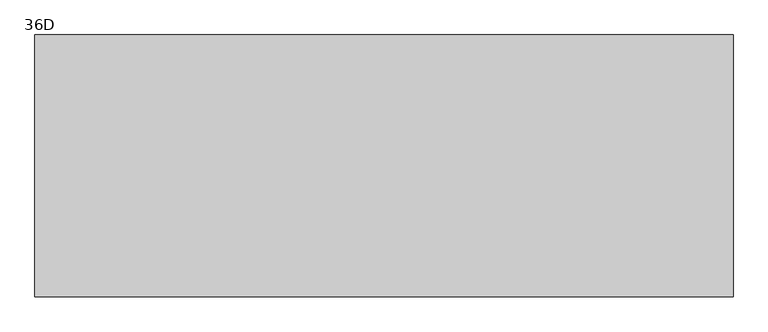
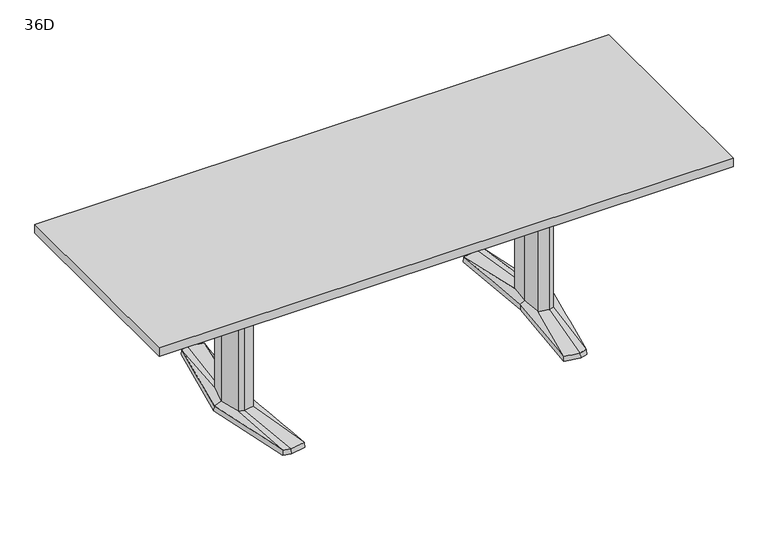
"""IFC4 building model written with IfcOpenShell, lengths in millimetres: furniture geometry, Coalesse_AM_Table_Conference_ETable2_Rectangular_96in_AluminiumBase : 36D."""

from ifc_helpers import new_model, si_unit, frame, origin, place, context, project, spatial, polyline, outline, extrude, source, transform, mapped, element, save
from ifc_brep_helpers import plane_surface, spline_surface, advanced_brep


def furniture_36d_90888d20(model_context):
    return source(origin(), model_context, "Body", "SolidModel", [
        advanced_brep(
        [(614.8503471, -379.3768856, 25.4), (644.5756636, -371.5332654, 25.4), (668.2327243, -89.293702, 36.5125), (648.9795254, -94.605478, 36.5125), (606.0521001, -87.0529327, 36.5125), (551.7612538, -368.5071562, 25.4), (597.9364207, 0.0, 36.5125), (579.8389754, 0.3970149, 25.4), (606.0521001, 87.0529327, 36.5125), (551.7615002, 368.5172593, 25.4), (648.9795254, 94.605478, 36.5125), (614.8502233, 379.3769183, 25.4), (668.2327243, 89.293702, 36.5125), (644.7535458, 371.4863276, 25.4), (692.1595251, 0.0, 36.5125), (721.4851663, 0.0003516, 25.4), (578.2468742, 0.3968871, 3.175), (550.06875, 369.8367279, 3.175), (614.9213004, 381.0, 3.175), (646.1093245, 372.7704151, 3.175), (723.10625, 0.0, 3.175), (645.9309817, -372.8174744, 3.175), (614.9213004, -381.0, 3.175), (550.06875, -369.8264415, 3.175), (649.5979264, 107.6121478, 3.175), (594.3065451, 97.8843184, 3.175), (585.1810887, 0.0, 3.175), (594.3065451, -97.8843184, 3.175), (649.5979264, -107.6121478, 3.175), (678.6183473, -99.6056872, 3.175), (705.3083085, 0.0, 3.175), (678.6183473, 99.6056872, 3.175), (613.4286812, 346.9152841, 3.175), (557.7811371, 337.3364985, 3.175), (560.1889918, 324.8641942, 3.175), (612.8600644, 333.9306305, 3.175), (648.6725609, 324.4807859, 3.175), (647.5544526, 337.9105158, 3.175), (613.4286812, -346.9152841, 3.175), (647.5544526, -337.9105158, 3.175), (648.6725609, -324.4807859, 3.175), (612.8600644, -333.9306305, 3.175), (560.1889918, -324.8641942, 3.175), (557.7811371, -337.3364985, 3.175), (649.5979264, 107.6121478, 0.0), (678.6183473, 99.6056872, 0.0), (705.3083085, 0.0, 0.0), (678.6183473, -99.6056872, 0.0), (649.5979264, -107.6121478, 0.0), (594.3065451, -97.8843184, 0.0), (585.1810887, 0.0, 0.0), (594.3065451, 97.8843184, 0.0), (613.4286812, 346.9152841, 0.0), (647.5544526, 337.9105158, 0.0), (648.6725609, 324.4807859, 0.0), (612.8600644, 333.9306305, 0.0), (560.1889918, 324.8641942, 0.0), (557.7811371, 337.3364985, 0.0), (613.4286812, -346.9152841, 0.0), (557.7811371, -337.3364985, 0.0), (560.1889918, -324.8641942, 0.0), (612.8600644, -333.9306305, 0.0), (648.6725609, -324.4807859, 0.0), (647.5544526, -337.9105158, 0.0), (668.2327243, 89.293702, 698.5), (648.9795254, 94.605478, 698.5), (606.0521001, 87.0529327, 698.5), (597.9364207, 0.0, 698.5), (606.0521001, -87.0529327, 698.5), (648.9795254, -94.605478, 698.5), (668.2327243, -89.293702, 698.5), (692.1595251, 0.0, 698.5)],
        [
            (0, 1),
            (1, 2),
            (2, 3),
            (3, 0),
            (3, 4),
            (4, 5),
            (5, 0),
            (4, 6),
            (6, 7),
            (7, 5),
            (6, 8),
            (8, 9),
            (9, 7),
            (8, 10),
            (10, 11),
            (11, 9),
            (10, 12),
            (12, 13),
            (13, 11),
            (12, 14),
            (14, 15),
            (15, 13),
            (1, 15),
            (14, 2),
            (16, 17),
            (17, 18),
            (18, 19),
            (19, 20),
            (20, 21),
            (21, 22),
            (22, 23),
            (23, 16),
            (24, 25),
            (25, 26),
            (26, 27),
            (27, 28),
            (28, 29),
            (29, 30),
            (30, 31),
            (31, 24),
            (32, 33),
            (33, 34),
            (34, 35),
            (35, 36),
            (36, 37),
            (37, 32),
            (38, 39),
            (39, 40),
            (40, 41),
            (41, 42),
            (42, 43),
            (43, 38),
            (16, 7),
            (9, 17),
            (11, 18),
            (13, 19),
            (15, 20),
            (1, 21),
            (0, 22),
            (5, 23),
            (44, 45),
            (45, 46),
            (46, 47),
            (47, 48),
            (48, 49),
            (49, 50),
            (50, 51),
            (51, 44),
            (52, 53),
            (53, 54),
            (54, 55),
            (55, 56),
            (56, 57),
            (57, 52),
            (58, 59),
            (59, 60),
            (60, 61),
            (61, 62),
            (62, 63),
            (63, 58),
            (44, 24),
            (31, 45),
            (30, 46),
            (29, 47),
            (28, 48),
            (27, 49),
            (26, 50),
            (25, 51),
            (52, 32),
            (37, 53),
            (36, 54),
            (35, 55),
            (34, 56),
            (33, 57),
            (58, 38),
            (43, 59),
            (42, 60),
            (41, 61),
            (40, 62),
            (39, 63),
            (64, 65),
            (65, 66),
            (66, 67),
            (67, 68),
            (68, 69),
            (69, 70),
            (70, 71),
            (71, 64),
            (71, 14),
            (12, 64),
            (70, 2),
            (69, 3),
            (68, 4),
            (67, 6),
            (66, 8),
            (65, 10),
        ],
        [
            spline_surface(1, 1, [[(644.5756636, -371.5332654, 25.4), (614.8503471, -379.3768856, 25.4)], [(668.2327243, -89.293702, 36.5125), (648.9795254, -94.605478, 36.5125)]], [2, 2], [2, 2], [0.0, 1.0], [0.0, 1.0]),
            spline_surface(1, 1, [[(614.8503471, -379.3768856, 25.4), (551.7612538, -368.5071562, 25.4)], [(648.9795254, -94.605478, 36.5125), (606.0521001, -87.0529327, 36.5125)]], [2, 2], [2, 2], [0.0, 1.0], [0.0, 1.0]),
            spline_surface(1, 1, [[(551.7612538, -368.5071562, 25.4), (579.8389754, 0.3970149, 25.4)], [(606.0521001, -87.0529327, 36.5125), (597.9364207, 0.0, 36.5125)]], [2, 2], [2, 2], [0.0, 1.0], [0.0, 1.0]),
            spline_surface(1, 1, [[(579.8389754, 0.3970149, 25.4), (551.7615002, 368.5172593, 25.4)], [(597.9364207, 0.0, 36.5125), (606.0521001, 87.0529327, 36.5125)]], [2, 2], [2, 2], [0.0, 1.0], [0.0, 1.0]),
            spline_surface(1, 1, [[(551.7615002, 368.5172593, 25.4), (614.8502233, 379.3769183, 25.4)], [(606.0521001, 87.0529327, 36.5125), (648.9795254, 94.605478, 36.5125)]], [2, 2], [2, 2], [0.0, 1.0], [0.0, 1.0]),
            spline_surface(1, 1, [[(614.8502233, 379.3769183, 25.4), (644.7535458, 371.4863276, 25.4)], [(648.9795254, 94.605478, 36.5125), (668.2327243, 89.293702, 36.5125)]], [2, 2], [2, 2], [0.0, 1.0], [0.0, 1.0]),
            spline_surface(1, 1, [[(644.7535458, 371.4863276, 25.4), (721.4851663, 0.0003516, 25.4)], [(668.2327243, 89.293702, 36.5125), (692.1595251, 0.0, 36.5125)]], [2, 2], [2, 2], [0.0, 1.0], [0.0, 1.0]),
            spline_surface(1, 1, [[(721.4851663, 0.0003516, 25.4), (644.5756636, -371.5332654, 25.4)], [(692.1595251, 0.0, 36.5125), (668.2327243, -89.293702, 36.5125)]], [2, 2], [2, 2], [0.0, 1.0], [0.0, 1.0]),
            plane_surface(frame((615.4216914, 0.0450143, 3.175), z_axis=(0.0, 0.0, -1.0), x_axis=(-0.9669048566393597, -0.2551372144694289, 0.0))),
            plane_surface(frame((564.1578121, 185.1168075, 3.175), z_axis=(-0.9945699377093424, -0.07585840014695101, 0.0712470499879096), x_axis=(-0.07605167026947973, 0.9971038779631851, 0.0))),
            plane_surface(frame((582.4950252, 375.418364, 3.175), z_axis=(-0.1692071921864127, 0.9830019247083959, 0.07124704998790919), x_axis=(0.985506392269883, 0.16963829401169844, 0.0))),
            plane_surface(frame((630.5153124, 376.8852076, 3.175), z_axis=(0.2544888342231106, 0.9644476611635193, 0.07124704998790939), x_axis=(0.9669048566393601, -0.25513721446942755, 0.0))),
            plane_surface(frame((684.6077872, 186.3852076, 3.175), z_axis=(0.9768383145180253, 0.2017690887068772, 0.07124704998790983), x_axis=(0.20228315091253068, -0.9793270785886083, 0.0))),
            plane_surface(frame((684.5186158, -186.4087372, 3.175), z_axis=(0.9767507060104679, -0.20219276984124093, 0.07124704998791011), x_axis=(-0.2027079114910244, -0.9792392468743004, 0.0))),
            plane_surface(frame((630.426141, -376.9087372, 3.175), z_axis=(0.2544888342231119, -0.9644476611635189, 0.0712470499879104), x_axis=(-0.9669048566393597, -0.2551372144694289, 0.0))),
            plane_surface(frame((582.4950252, -375.4132207, 3.175), z_axis=(-0.16935861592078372, -0.982975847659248, 0.07124704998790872), x_axis=(-0.9854802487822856, 0.16979010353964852, 0.0))),
            plane_surface(frame((564.1578121, -184.7147772, 3.175), z_axis=(-0.9945820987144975, 0.07569878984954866, 0.07124704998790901), x_axis=(0.07589165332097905, 0.9971160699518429, 0.0))),
            plane_surface(frame((652.3571479, 106.8509046, 0.0), z_axis=(0.0, 0.0, -1.0000000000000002), x_axis=(-0.9639855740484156, 0.26595453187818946, 0.0))),
            plane_surface(frame((649.5979264, 107.6121478, 3.175), z_axis=(0.26595453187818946, 0.9639855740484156, 0.0), x_axis=(0.0, 0.0, -1.0))),
            plane_surface(frame((678.6183473, 99.6056872, 3.175), z_axis=(0.9659241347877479, 0.2588253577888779, 0.0), x_axis=(0.0, 0.0, -1.0))),
            plane_surface(frame((705.3083085, 0.0, 3.175), z_axis=(0.9659241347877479, -0.2588253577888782, 0.0), x_axis=(0.0, 0.0, -1.0))),
            plane_surface(frame((678.6183473, -99.6056872, 3.175), z_axis=(0.26595453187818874, -0.9639855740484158, 0.0), x_axis=(0.0, 0.0, -1.0))),
            plane_surface(frame((649.5979264, -107.6121478, 3.175), z_axis=(-0.17327617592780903, -0.9848732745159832, 0.0), x_axis=(0.0, 0.0, -1.0))),
            plane_surface(frame((594.3065451, -97.8843184, 3.175), z_axis=(-0.9956824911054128, -0.0928244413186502, 0.0), x_axis=(0.0, 0.0, -1.0))),
            plane_surface(frame((585.1810887, 0.0, 3.175), z_axis=(-0.9956824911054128, 0.09282444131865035, 0.0), x_axis=(0.0, 0.0, -1.0))),
            plane_surface(frame((594.3065451, 97.8843184, 3.175), z_axis=(-0.17327617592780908, 0.984873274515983, 0.0), x_axis=(0.0, 0.0, -1.0))),
            plane_surface(frame((613.4286812, 346.9152841, 3.175), z_axis=(0.25513721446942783, 0.9669048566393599, 0.0), x_axis=(0.0, 0.0, -1.0))),
            plane_surface(frame((647.5544526, 337.9105158, 3.175), z_axis=(0.9965521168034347, 0.0829691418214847, 0.0), x_axis=(0.0, 0.0, -1.0))),
            plane_surface(frame((648.6725609, 324.4807859, 3.175), z_axis=(-0.25513721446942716, -0.9669048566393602, 0.0), x_axis=(0.0, 0.0, -1.0))),
            plane_surface(frame((612.8600644, 333.9306305, 3.175), z_axis=(0.16963829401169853, -0.985506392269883, 0.0), x_axis=(0.0, 0.0, -1.0))),
            plane_surface(frame((560.1889918, 324.8641942, 3.175), z_axis=(-0.9818699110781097, -0.18955600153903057, 0.0), x_axis=(0.0, 0.0, -1.0))),
            plane_surface(frame((557.7811371, 337.3364985, 3.175), z_axis=(-0.16963829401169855, 0.9855063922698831, 0.0), x_axis=(0.0, 0.0, -1.0))),
            plane_surface(frame((613.4286812, -346.9152841, 3.175), z_axis=(-0.1696382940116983, -0.9855063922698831, 0.0), x_axis=(0.0, 0.0, -1.0))),
            plane_surface(frame((557.7811371, -337.3364985, 3.175), z_axis=(-0.9818699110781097, 0.18955600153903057, 0.0), x_axis=(0.0, 0.0, -1.0))),
            plane_surface(frame((560.1889918, -324.8641942, 3.175), z_axis=(0.16963829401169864, 0.985506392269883, 0.0), x_axis=(0.0, 0.0, -1.0))),
            plane_surface(frame((612.8600644, -333.9306305, 3.175), z_axis=(-0.2551372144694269, 0.9669048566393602, 0.0), x_axis=(0.0, 0.0, -1.0))),
            plane_surface(frame((648.6725609, -324.4807859, 3.175), z_axis=(0.9965521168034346, -0.0829691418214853, 0.0), x_axis=(0.0, 0.0, -1.0))),
            plane_surface(frame((647.5544526, -337.9105158, 3.175), z_axis=(0.2551372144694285, -0.9669048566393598, 0.0), x_axis=(0.0, 0.0, -1.0))),
            plane_surface(frame((692.1595251, 0.0, 698.5), z_axis=(0.0, 0.0, 1.0), x_axis=(0.25882535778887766, -0.965924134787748, 0.0))),
            plane_surface(frame((668.2327243, 89.293702, 698.5), z_axis=(0.965924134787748, 0.25882535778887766, 0.0), x_axis=(0.0, 0.0, -1.0))),
            plane_surface(frame((692.1595251, 0.0, 698.5), z_axis=(0.965924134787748, -0.2588253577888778, 0.0), x_axis=(0.0, 0.0, -1.0))),
            plane_surface(frame((668.2327243, -89.293702, 698.5), z_axis=(0.2659545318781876, -0.963985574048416, 0.0), x_axis=(0.0, 0.0, -1.0))),
            plane_surface(frame((648.9795254, -94.605478, 698.5), z_axis=(-0.1732761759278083, -0.9848732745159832, 0.0), x_axis=(0.0, 0.0, -1.0))),
            plane_surface(frame((606.0521001, -87.0529327, 698.5), z_axis=(-0.9956824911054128, -0.0928244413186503, 0.0), x_axis=(0.0, 0.0, -1.0))),
            plane_surface(frame((597.9364207, 0.0, 698.5), z_axis=(-0.9956824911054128, 0.09282444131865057, 0.0), x_axis=(0.0, 0.0, -1.0))),
            plane_surface(frame((606.0521001, 87.0529327, 698.5), z_axis=(-0.17327617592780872, 0.9848732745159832, 0.0), x_axis=(0.0, 0.0, -1.0))),
            plane_surface(frame((648.9795254, 94.605478, 698.5), z_axis=(0.26595453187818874, 0.9639855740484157, 0.0), x_axis=(0.0, 0.0, -1.0))),
        ],
        [
            (0, [[1, 2, 3, 4]]),
            (1, [[5, 6, 7, -4]]),
            (2, [[8, 9, 10, -6]]),
            (3, [[11, 12, 13, -9]]),
            (4, [[14, 15, 16, -12]]),
            (5, [[17, 18, 19, -15]]),
            (6, [[20, 21, 22, -18]]),
            (7, [[23, -21, 24, -2]]),
            (8, [[25, 26, 27, 28, 29, 30, 31, 32], [33, 34, 35, 36, 37, 38, 39, 40], [41, 42, 43, 44, 45, 46], [47, 48, 49, 50, 51, 52]]),
            (9, [[53, -13, 54, -25]]),
            (10, [[-54, -16, 55, -26]]),
            (11, [[-55, -19, 56, -27]]),
            (12, [[-56, -22, 57, -28]]),
            (13, [[-57, -23, 58, -29]]),
            (14, [[-58, -1, 59, -30]]),
            (15, [[-59, -7, 60, -31]]),
            (16, [[-60, -10, -53, -32]]),
            (17, [[61, 62, 63, 64, 65, 66, 67, 68]]),
            (17, [[69, 70, 71, 72, 73, 74]]),
            (17, [[75, 76, 77, 78, 79, 80]]),
            (18, [[81, -40, 82, -61]]),
            (19, [[-82, -39, 83, -62]]),
            (20, [[-83, -38, 84, -63]]),
            (21, [[-84, -37, 85, -64]]),
            (22, [[-85, -36, 86, -65]]),
            (23, [[-86, -35, 87, -66]]),
            (24, [[-87, -34, 88, -67]]),
            (25, [[-88, -33, -81, -68]]),
            (26, [[89, -46, 90, -69]]),
            (27, [[-90, -45, 91, -70]]),
            (28, [[-91, -44, 92, -71]]),
            (29, [[-92, -43, 93, -72]]),
            (30, [[-93, -42, 94, -73]]),
            (31, [[-94, -41, -89, -74]]),
            (32, [[95, -52, 96, -75]]),
            (33, [[-96, -51, 97, -76]]),
            (34, [[-97, -50, 98, -77]]),
            (35, [[-98, -49, 99, -78]]),
            (36, [[-99, -48, 100, -79]]),
            (37, [[-100, -47, -95, -80]]),
            (38, [[101, 102, 103, 104, 105, 106, 107, 108]]),
            (39, [[109, -20, 110, -108]]),
            (40, [[111, -24, -109, -107]]),
            (41, [[112, -3, -111, -106]]),
            (42, [[113, -5, -112, -105]]),
            (43, [[114, -8, -113, -104]]),
            (44, [[115, -11, -114, -103]]),
            (45, [[116, -14, -115, -102]]),
            (46, [[-110, -17, -116, -101]]),
        ],
    ),
        advanced_brep(
        [(-614.8503471, -379.3768856, 25.4), (-648.9795254, -94.605478, 36.5125), (-668.2327243, -89.293702, 36.5125), (-644.5756636, -371.5332654, 25.4), (-551.7612538, -368.5071562, 25.4), (-606.0521001, -87.0529327, 36.5125), (-579.8389754, 0.3970149, 25.4), (-597.9364207, 0.0, 36.5125), (-551.7615002, 368.5172593, 25.4), (-606.0521001, 87.0529327, 36.5125), (-614.8502233, 379.3769183, 25.4), (-648.9795254, 94.605478, 36.5125), (-644.7535458, 371.4863276, 25.4), (-668.2327243, 89.293702, 36.5125), (-721.4851663, 0.0003516, 25.4), (-692.1595251, 0.0, 36.5125), (-578.2468742, 0.3968871, 3.175), (-550.06875, -369.8264415, 3.175), (-614.9213004, -381.0, 3.175), (-645.9309817, -372.8174744, 3.175), (-723.10625, 0.0, 3.175), (-646.1093245, 372.7704151, 3.175), (-614.9213004, 381.0, 3.175), (-550.06875, 369.8367279, 3.175), (-649.5979264, 107.6121478, 3.175), (-678.6183473, 99.6056872, 3.175), (-705.3083085, 0.0, 3.175), (-678.6183473, -99.6056872, 3.175), (-649.5979264, -107.6121478, 3.175), (-594.3065451, -97.8843184, 3.175), (-585.1810887, 0.0, 3.175), (-594.3065451, 97.8843184, 3.175), (-613.4286812, 346.9152841, 3.175), (-647.5544526, 337.9105158, 3.175), (-648.6725609, 324.4807859, 3.175), (-612.8600644, 333.9306305, 3.175), (-560.1889918, 324.8641942, 3.175), (-557.7811371, 337.3364985, 3.175), (-613.4286812, -346.9152841, 3.175), (-557.7811371, -337.3364985, 3.175), (-560.1889918, -324.8641942, 3.175), (-612.8600644, -333.9306305, 3.175), (-648.6725609, -324.4807859, 3.175), (-647.5544526, -337.9105158, 3.175), (-649.5979264, 107.6121478, 0.0), (-594.3065451, 97.8843184, 0.0), (-585.1810887, 0.0, 0.0), (-594.3065451, -97.8843184, 0.0), (-649.5979264, -107.6121478, 0.0), (-678.6183473, -99.6056872, 0.0), (-705.3083085, 0.0, 0.0), (-678.6183473, 99.6056872, 0.0), (-613.4286812, 346.9152841, 0.0), (-557.7811371, 337.3364985, 0.0), (-560.1889918, 324.8641942, 0.0), (-612.8600644, 333.9306305, 0.0), (-648.6725609, 324.4807859, 0.0), (-647.5544526, 337.9105158, 0.0), (-613.4286812, -346.9152841, 0.0), (-647.5544526, -337.9105158, 0.0), (-648.6725609, -324.4807859, 0.0), (-612.8600644, -333.9306305, 0.0), (-560.1889918, -324.8641942, 0.0), (-557.7811371, -337.3364985, 0.0), (-668.2327243, 89.293702, 698.5), (-692.1595251, 0.0, 698.5), (-668.2327243, -89.293702, 698.5), (-648.9795254, -94.605478, 698.5), (-606.0521001, -87.0529327, 698.5), (-597.9364207, 0.0, 698.5), (-606.0521001, 87.0529327, 698.5), (-648.9795254, 94.605478, 698.5)],
        [
            (0, 1),
            (1, 2),
            (2, 3),
            (3, 0),
            (0, 4),
            (4, 5),
            (5, 1),
            (4, 6),
            (6, 7),
            (7, 5),
            (6, 8),
            (8, 9),
            (9, 7),
            (8, 10),
            (10, 11),
            (11, 9),
            (10, 12),
            (12, 13),
            (13, 11),
            (12, 14),
            (14, 15),
            (15, 13),
            (2, 15),
            (14, 3),
            (16, 17),
            (17, 18),
            (18, 19),
            (19, 20),
            (20, 21),
            (21, 22),
            (22, 23),
            (23, 16),
            (24, 25),
            (25, 26),
            (26, 27),
            (27, 28),
            (28, 29),
            (29, 30),
            (30, 31),
            (31, 24),
            (32, 33),
            (33, 34),
            (34, 35),
            (35, 36),
            (36, 37),
            (37, 32),
            (38, 39),
            (39, 40),
            (40, 41),
            (41, 42),
            (42, 43),
            (43, 38),
            (23, 8),
            (6, 16),
            (22, 10),
            (21, 12),
            (20, 14),
            (19, 3),
            (18, 0),
            (17, 4),
            (44, 45),
            (45, 46),
            (46, 47),
            (47, 48),
            (48, 49),
            (49, 50),
            (50, 51),
            (51, 44),
            (52, 53),
            (53, 54),
            (54, 55),
            (55, 56),
            (56, 57),
            (57, 52),
            (58, 59),
            (59, 60),
            (60, 61),
            (61, 62),
            (62, 63),
            (63, 58),
            (51, 25),
            (24, 44),
            (50, 26),
            (49, 27),
            (48, 28),
            (47, 29),
            (46, 30),
            (45, 31),
            (57, 33),
            (32, 52),
            (56, 34),
            (55, 35),
            (54, 36),
            (53, 37),
            (63, 39),
            (38, 58),
            (62, 40),
            (61, 41),
            (60, 42),
            (59, 43),
            (64, 65),
            (65, 66),
            (66, 67),
            (67, 68),
            (68, 69),
            (69, 70),
            (70, 71),
            (71, 64),
            (64, 13),
            (15, 65),
            (2, 66),
            (1, 67),
            (5, 68),
            (7, 69),
            (9, 70),
            (11, 71),
        ],
        [
            spline_surface(1, 1, [[(-644.5756636, -371.5332654, 25.4), (-668.2327243, -89.293702, 36.5125)], [(-614.8503471, -379.3768856, 25.4), (-648.9795254, -94.605478, 36.5125)]], [2, 2], [2, 2], [0.0, 1.0], [0.0, 1.0]),
            spline_surface(1, 1, [[(-614.8503471, -379.3768856, 25.4), (-648.9795254, -94.605478, 36.5125)], [(-551.7612538, -368.5071562, 25.4), (-606.0521001, -87.0529327, 36.5125)]], [2, 2], [2, 2], [0.0, 1.0], [0.0, 1.0]),
            spline_surface(1, 1, [[(-551.7612538, -368.5071562, 25.4), (-606.0521001, -87.0529327, 36.5125)], [(-579.8389754, 0.3970149, 25.4), (-597.9364207, 0.0, 36.5125)]], [2, 2], [2, 2], [0.0, 1.0], [0.0, 1.0]),
            spline_surface(1, 1, [[(-579.8389754, 0.3970149, 25.4), (-597.9364207, 0.0, 36.5125)], [(-551.7615002, 368.5172593, 25.4), (-606.0521001, 87.0529327, 36.5125)]], [2, 2], [2, 2], [0.0, 1.0], [0.0, 1.0]),
            spline_surface(1, 1, [[(-551.7615002, 368.5172593, 25.4), (-606.0521001, 87.0529327, 36.5125)], [(-614.8502233, 379.3769183, 25.4), (-648.9795254, 94.605478, 36.5125)]], [2, 2], [2, 2], [0.0, 1.0], [0.0, 1.0]),
            spline_surface(1, 1, [[(-614.8502233, 379.3769183, 25.4), (-648.9795254, 94.605478, 36.5125)], [(-644.7535458, 371.4863276, 25.4), (-668.2327243, 89.293702, 36.5125)]], [2, 2], [2, 2], [0.0, 1.0], [0.0, 1.0]),
            spline_surface(1, 1, [[(-644.7535458, 371.4863276, 25.4), (-668.2327243, 89.293702, 36.5125)], [(-721.4851663, 0.0003516, 25.4), (-692.1595251, 0.0, 36.5125)]], [2, 2], [2, 2], [0.0, 1.0], [0.0, 1.0]),
            spline_surface(1, 1, [[(-721.4851663, 0.0003516, 25.4), (-692.1595251, 0.0, 36.5125)], [(-644.5756636, -371.5332654, 25.4), (-668.2327243, -89.293702, 36.5125)]], [2, 2], [2, 2], [0.0, 1.0], [0.0, 1.0]),
            plane_surface(frame((-615.4216914, 0.0450143, 3.175), z_axis=(0.0, 0.0, -1.0), x_axis=(0.9669048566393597, -0.2551372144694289, 0.0))),
            plane_surface(frame((-564.1578121, 185.1168075, 3.175), z_axis=(0.9945699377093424, -0.07585840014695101, 0.0712470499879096), x_axis=(0.07605167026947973, 0.9971038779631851, 0.0))),
            plane_surface(frame((-582.4950252, 375.418364, 3.175), z_axis=(0.1692071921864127, 0.9830019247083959, 0.07124704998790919), x_axis=(-0.985506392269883, 0.16963829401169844, 0.0))),
            plane_surface(frame((-630.5153124, 376.8852076, 3.175), z_axis=(-0.2544888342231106, 0.9644476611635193, 0.07124704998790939), x_axis=(-0.9669048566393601, -0.25513721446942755, 0.0))),
            plane_surface(frame((-684.6077872, 186.3852076, 3.175), z_axis=(-0.9768383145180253, 0.2017690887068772, 0.07124704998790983), x_axis=(-0.20228315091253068, -0.9793270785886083, 0.0))),
            plane_surface(frame((-684.5186158, -186.4087372, 3.175), z_axis=(-0.9767507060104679, -0.20219276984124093, 0.07124704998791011), x_axis=(0.2027079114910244, -0.9792392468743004, 0.0))),
            plane_surface(frame((-630.426141, -376.9087372, 3.175), z_axis=(-0.2544888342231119, -0.9644476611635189, 0.0712470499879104), x_axis=(0.9669048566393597, -0.2551372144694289, 0.0))),
            plane_surface(frame((-582.4950252, -375.4132207, 3.175), z_axis=(0.16935861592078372, -0.982975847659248, 0.07124704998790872), x_axis=(0.9854802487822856, 0.16979010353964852, 0.0))),
            plane_surface(frame((-564.1578121, -184.7147772, 3.175), z_axis=(0.9945820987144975, 0.07569878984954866, 0.07124704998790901), x_axis=(-0.07589165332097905, 0.9971160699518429, 0.0))),
            plane_surface(frame((-652.3571479, 106.8509046, 0.0), z_axis=(0.0, 0.0, -1.0000000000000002), x_axis=(0.9639855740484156, 0.26595453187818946, 0.0))),
            plane_surface(frame((-649.5979264, 107.6121478, 3.175), z_axis=(-0.26595453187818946, 0.9639855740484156, 0.0), x_axis=(0.0, 0.0, -1.0))),
            plane_surface(frame((-678.6183473, 99.6056872, 3.175), z_axis=(-0.9659241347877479, 0.2588253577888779, 0.0), x_axis=(0.0, 0.0, -1.0))),
            plane_surface(frame((-705.3083085, 0.0, 3.175), z_axis=(-0.9659241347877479, -0.2588253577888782, 0.0), x_axis=(0.0, 0.0, -1.0))),
            plane_surface(frame((-678.6183473, -99.6056872, 3.175), z_axis=(-0.26595453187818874, -0.9639855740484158, 0.0), x_axis=(0.0, 0.0, -1.0))),
            plane_surface(frame((-649.5979264, -107.6121478, 3.175), z_axis=(0.17327617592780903, -0.9848732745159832, 0.0), x_axis=(0.0, 0.0, -1.0))),
            plane_surface(frame((-594.3065451, -97.8843184, 3.175), z_axis=(0.9956824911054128, -0.0928244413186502, 0.0), x_axis=(0.0, 0.0, -1.0))),
            plane_surface(frame((-585.1810887, 0.0, 3.175), z_axis=(0.9956824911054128, 0.09282444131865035, 0.0), x_axis=(0.0, 0.0, -1.0))),
            plane_surface(frame((-594.3065451, 97.8843184, 3.175), z_axis=(0.17327617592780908, 0.984873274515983, 0.0), x_axis=(0.0, 0.0, -1.0))),
            plane_surface(frame((-613.4286812, 346.9152841, 3.175), z_axis=(-0.25513721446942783, 0.9669048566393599, 0.0), x_axis=(0.0, 0.0, -1.0))),
            plane_surface(frame((-647.5544526, 337.9105158, 3.175), z_axis=(-0.9965521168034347, 0.0829691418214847, 0.0), x_axis=(0.0, 0.0, -1.0))),
            plane_surface(frame((-648.6725609, 324.4807859, 3.175), z_axis=(0.25513721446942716, -0.9669048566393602, 0.0), x_axis=(0.0, 0.0, -1.0))),
            plane_surface(frame((-612.8600644, 333.9306305, 3.175), z_axis=(-0.16963829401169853, -0.985506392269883, 0.0), x_axis=(0.0, 0.0, -1.0))),
            plane_surface(frame((-560.1889918, 324.8641942, 3.175), z_axis=(0.9818699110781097, -0.18955600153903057, 0.0), x_axis=(0.0, 0.0, -1.0))),
            plane_surface(frame((-557.7811371, 337.3364985, 3.175), z_axis=(0.16963829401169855, 0.9855063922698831, 0.0), x_axis=(0.0, 0.0, -1.0))),
            plane_surface(frame((-613.4286812, -346.9152841, 3.175), z_axis=(0.1696382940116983, -0.9855063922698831, 0.0), x_axis=(0.0, 0.0, -1.0))),
            plane_surface(frame((-557.7811371, -337.3364985, 3.175), z_axis=(0.9818699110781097, 0.18955600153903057, 0.0), x_axis=(0.0, 0.0, -1.0))),
            plane_surface(frame((-560.1889918, -324.8641942, 3.175), z_axis=(-0.16963829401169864, 0.985506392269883, 0.0), x_axis=(0.0, 0.0, -1.0))),
            plane_surface(frame((-612.8600644, -333.9306305, 3.175), z_axis=(0.2551372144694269, 0.9669048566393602, 0.0), x_axis=(0.0, 0.0, -1.0))),
            plane_surface(frame((-648.6725609, -324.4807859, 3.175), z_axis=(-0.9965521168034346, -0.0829691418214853, 0.0), x_axis=(0.0, 0.0, -1.0))),
            plane_surface(frame((-647.5544526, -337.9105158, 3.175), z_axis=(-0.2551372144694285, -0.9669048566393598, 0.0), x_axis=(0.0, 0.0, -1.0))),
            plane_surface(frame((-692.1595251, 0.0, 698.5), z_axis=(0.0, 0.0, 1.0), x_axis=(-0.25882535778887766, -0.965924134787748, 0.0))),
            plane_surface(frame((-668.2327243, 89.293702, 698.5), z_axis=(-0.965924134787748, 0.25882535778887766, 0.0), x_axis=(0.0, 0.0, -1.0))),
            plane_surface(frame((-692.1595251, 0.0, 698.5), z_axis=(-0.965924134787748, -0.2588253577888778, 0.0), x_axis=(0.0, 0.0, -1.0))),
            plane_surface(frame((-668.2327243, -89.293702, 698.5), z_axis=(-0.2659545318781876, -0.963985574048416, 0.0), x_axis=(0.0, 0.0, -1.0))),
            plane_surface(frame((-648.9795254, -94.605478, 698.5), z_axis=(0.1732761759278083, -0.9848732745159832, 0.0), x_axis=(0.0, 0.0, -1.0))),
            plane_surface(frame((-606.0521001, -87.0529327, 698.5), z_axis=(0.9956824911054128, -0.0928244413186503, 0.0), x_axis=(0.0, 0.0, -1.0))),
            plane_surface(frame((-597.9364207, 0.0, 698.5), z_axis=(0.9956824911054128, 0.09282444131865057, 0.0), x_axis=(0.0, 0.0, -1.0))),
            plane_surface(frame((-606.0521001, 87.0529327, 698.5), z_axis=(0.17327617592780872, 0.9848732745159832, 0.0), x_axis=(0.0, 0.0, -1.0))),
            plane_surface(frame((-648.9795254, 94.605478, 698.5), z_axis=(-0.26595453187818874, 0.9639855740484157, 0.0), x_axis=(0.0, 0.0, -1.0))),
        ],
        [
            (0, [[1, 2, 3, 4]]),
            (1, [[-1, 5, 6, 7]]),
            (2, [[-6, 8, 9, 10]]),
            (3, [[-9, 11, 12, 13]]),
            (4, [[-12, 14, 15, 16]]),
            (5, [[-15, 17, 18, 19]]),
            (6, [[-18, 20, 21, 22]]),
            (7, [[-3, 23, -21, 24]]),
            (8, [[25, 26, 27, 28, 29, 30, 31, 32], [33, 34, 35, 36, 37, 38, 39, 40], [41, 42, 43, 44, 45, 46], [47, 48, 49, 50, 51, 52]]),
            (9, [[-32, 53, -11, 54]]),
            (10, [[-31, 55, -14, -53]]),
            (11, [[-30, 56, -17, -55]]),
            (12, [[-29, 57, -20, -56]]),
            (13, [[-28, 58, -24, -57]]),
            (14, [[-27, 59, -4, -58]]),
            (15, [[-26, 60, -5, -59]]),
            (16, [[-25, -54, -8, -60]]),
            (17, [[61, 62, 63, 64, 65, 66, 67, 68]]),
            (17, [[69, 70, 71, 72, 73, 74]]),
            (17, [[75, 76, 77, 78, 79, 80]]),
            (18, [[-68, 81, -33, 82]]),
            (19, [[-67, 83, -34, -81]]),
            (20, [[-66, 84, -35, -83]]),
            (21, [[-65, 85, -36, -84]]),
            (22, [[-64, 86, -37, -85]]),
            (23, [[-63, 87, -38, -86]]),
            (24, [[-62, 88, -39, -87]]),
            (25, [[-61, -82, -40, -88]]),
            (26, [[-74, 89, -41, 90]]),
            (27, [[-73, 91, -42, -89]]),
            (28, [[-72, 92, -43, -91]]),
            (29, [[-71, 93, -44, -92]]),
            (30, [[-70, 94, -45, -93]]),
            (31, [[-69, -90, -46, -94]]),
            (32, [[-80, 95, -47, 96]]),
            (33, [[-79, 97, -48, -95]]),
            (34, [[-78, 98, -49, -97]]),
            (35, [[-77, 99, -50, -98]]),
            (36, [[-76, 100, -51, -99]]),
            (37, [[-75, -96, -52, -100]]),
            (38, [[101, 102, 103, 104, 105, 106, 107, 108]]),
            (39, [[-101, 109, -22, 110]]),
            (40, [[-102, -110, -23, 111]]),
            (41, [[-103, -111, -2, 112]]),
            (42, [[-104, -112, -7, 113]]),
            (43, [[-105, -113, -10, 114]]),
            (44, [[-106, -114, -13, 115]]),
            (45, [[-107, -115, -16, 116]]),
            (46, [[-108, -116, -19, -109]]),
        ],
    ),
        extrude(outline(polyline([(96.8375, 698.5), (103.1875, 698.5), (103.1875, 476.25), (-103.1875, 476.25), (-103.1875, 698.5), (-96.8375, 698.5), (-96.8375, 482.6), (96.8375, 482.6), (96.8375, 698.5)])), frame((-597.9364207, 0.0, 0.0), z_axis=(1.0, 0.0, 0.0), x_axis=(0.0, 1.0, 0.0)), (0.0, 0.0, 1.0), 1195.8728415),
        extrude(outline(polyline([(-1219.2, -457.2), (-1219.2, 457.2), (1219.2, 457.2), (1219.2, -457.2), (-1219.2, -457.2)])), frame((0.0, 0.0, 698.5), z_axis=(0.0, 0.0, 1.0), x_axis=(1.0, 0.0, 0.0)), (0.0, 0.0, 1.0), 38.1),
    ])


if __name__ == "__main__":
    model = new_model("IFC4")
    model_context = context("Model", 3, world=origin())
    ifc_project = project(units=[si_unit("LENGTHUNIT", "METRE", prefix="MILLI")], contexts=[model_context])
    site = spatial("IfcSite", under=ifc_project)
    building = spatial("IfcBuilding", under=site)
    placement = place(None, origin())
    furniture_36d_shape = furniture_36d_90888d20(model_context)
    element("IfcFurniture", 1, ObjectType="Coalesse_AM_Table_Conference_ETable2_Rectangular_96in_AluminiumBase : 36D", at=placement, inside=building, context=model_context, shape_type="MappedRepresentation", body=[
        mapped(furniture_36d_shape, transform((0.0, 0.0, 0.0), x_axis=(1.0, 0.0, 0.0), y_axis=(0.0, 1.0, 0.0), z_axis=(0.0, 0.0, 1.0))),
    ])
    save(model, "model.ifc")
